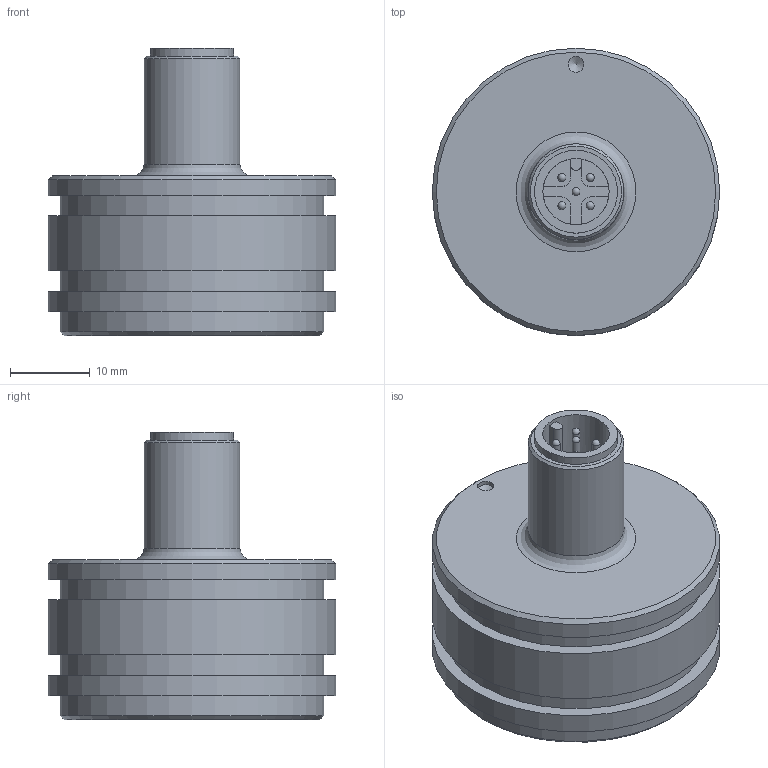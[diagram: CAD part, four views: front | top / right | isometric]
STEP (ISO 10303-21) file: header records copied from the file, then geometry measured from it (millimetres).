
FILE_DESCRIPTION((''),'2;1');
FILE_NAME('K:\Daten\Ptam2 M12A.stp','2013-07-04T11:43:14',('kamp'),(''),'Autodesk Inventor 2008','Autodesk Inventor 2008','');
FILE_SCHEMA(('AUTOMOTIVE_DESIGN { 1 0 10303 214 1 1 1 1 }'));
Length unit declared in the file: millimetre
Products named in the file (1): Bauteil2
Bounding box: 36 x 36 x 36.01 mm (x, y, z)
Volume: 20402.4 mm3; surface area: 5749.7 mm2
Topology: 1 solids, 1 shells, 720 faces, 1942 edges, 1290 vertices
Faces by surface type: plane 388, bspline 291, cylinder 33, sphere 5, cone 3
Full cylindrical faces by diameter (mm): 0.923 x1, 1 x5, 1.024 x1, 8.3 x1, 10.4 x1, 12 x1, 33 x3, 36 x3
Entity records: 24469 total; most frequent: CARTESIAN_POINT 7733, ORIENTED_EDGE 3810, DIRECTION 2278, EDGE_CURVE 1905, VERTEX_POINT 1285, VECTOR 1240, LINE 1240, EDGE_LOOP 818
